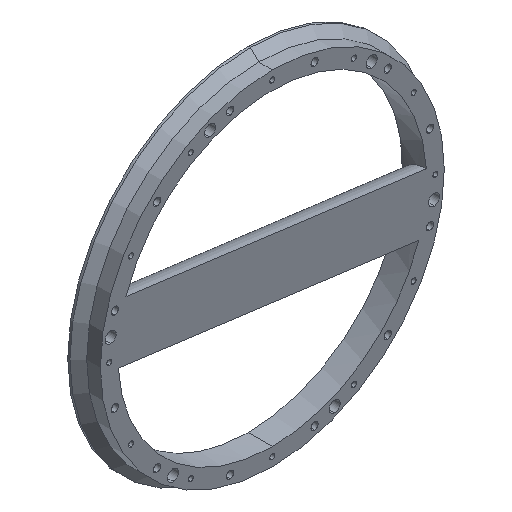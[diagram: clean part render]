
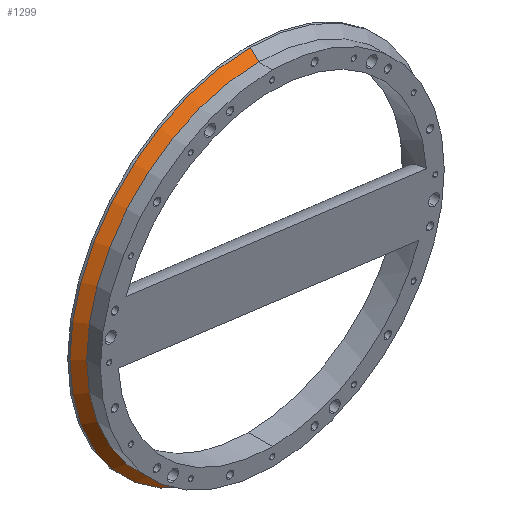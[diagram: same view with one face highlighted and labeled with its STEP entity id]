
A CAD part, isometric view. The second image highlights one B-rep face of the part: STEP entity #1299.
In plain terms, the highlighted conical face has half-angle 45 degrees and reference radius 77.9 mm.
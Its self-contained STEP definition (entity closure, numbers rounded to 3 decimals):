
#3 = CIRCLE ( 'NONE', #1527, 81.7 ) ;
#54 = CARTESIAN_POINT ( 'NONE',  ( 0., 6.2, -77.9 ) ) ;
#87 = CONICAL_SURFACE ( 'NONE', #1399, 77.9, 0.785 ) ;
#108 = DIRECTION ( 'NONE',  ( 0., -1., 0. ) ) ;
#220 = VERTEX_POINT ( 'NONE', #2473 ) ;
#350 = VECTOR ( 'NONE', #818, 1000. ) ;
#398 = VECTOR ( 'NONE', #1554, 1000. ) ;
#438 = VERTEX_POINT ( 'NONE', #54 ) ;
#772 = CARTESIAN_POINT ( 'NONE',  ( 0., 6.2, -77.9 ) ) ;
#818 = DIRECTION ( 'NONE',  ( 0., 0.707, 0.707 ) ) ;
#821 = ORIENTED_EDGE ( 'NONE', *, *, #1784, .F. ) ;
#881 = DIRECTION ( 'NONE',  ( 0., -1., 0. ) ) ;
#896 = CARTESIAN_POINT ( 'NONE',  ( 0., 10., 81.7 ) ) ;
#942 = CARTESIAN_POINT ( 'NONE',  ( 0., 6.2, 77.9 ) ) ;
#1062 = AXIS2_PLACEMENT_3D ( 'NONE', #1807, #108, #1968 ) ;
#1067 = LINE ( 'NONE', #1474, #350 ) ;
#1146 = EDGE_CURVE ( 'NONE', #2707, #220, #3, .T. ) ;
#1157 = LINE ( 'NONE', #772, #398 ) ;
#1299 = ADVANCED_FACE ( 'NONE', ( #2005 ), #87, .T. ) ;
#1399 = AXIS2_PLACEMENT_3D ( 'NONE', #1614, #2219, #2021 ) ;
#1474 = CARTESIAN_POINT ( 'NONE',  ( 0., 6.2, 77.9 ) ) ;
#1527 = AXIS2_PLACEMENT_3D ( 'NONE', #2551, #881, #1699 ) ;
#1550 = ORIENTED_EDGE ( 'NONE', *, *, #1146, .T. ) ;
#1554 = DIRECTION ( 'NONE',  ( 0., 0.707, -0.707 ) ) ;
#1614 = CARTESIAN_POINT ( 'NONE',  ( 0., 6.2, 0. ) ) ;
#1699 = DIRECTION ( 'NONE',  ( 0., 0., -1. ) ) ;
#1784 = EDGE_CURVE ( 'NONE', #438, #220, #1157, .T. ) ;
#1807 = CARTESIAN_POINT ( 'NONE',  ( 0., 6.2, 0. ) ) ;
#1828 = VERTEX_POINT ( 'NONE', #942 ) ;
#1914 = EDGE_CURVE ( 'NONE', #1828, #2707, #1067, .T. ) ;
#1968 = DIRECTION ( 'NONE',  ( 0., 0., -1. ) ) ;
#2005 = FACE_OUTER_BOUND ( 'NONE', #2519, .T. ) ;
#2021 = DIRECTION ( 'NONE',  ( 0., 0., 1. ) ) ;
#2055 = ORIENTED_EDGE ( 'NONE', *, *, #2527, .F. ) ;
#2219 = DIRECTION ( 'NONE',  ( 0., 1., 0. ) ) ;
#2252 = CIRCLE ( 'NONE', #1062, 77.9 ) ;
#2473 = CARTESIAN_POINT ( 'NONE',  ( 0., 10., -81.7 ) ) ;
#2519 = EDGE_LOOP ( 'NONE', ( #821, #2055, #2684, #1550 ) ) ;
#2527 = EDGE_CURVE ( 'NONE', #1828, #438, #2252, .T. ) ;
#2551 = CARTESIAN_POINT ( 'NONE',  ( 0., 10., 0. ) ) ;
#2684 = ORIENTED_EDGE ( 'NONE', *, *, #1914, .T. ) ;
#2707 = VERTEX_POINT ( 'NONE', #896 ) ;
